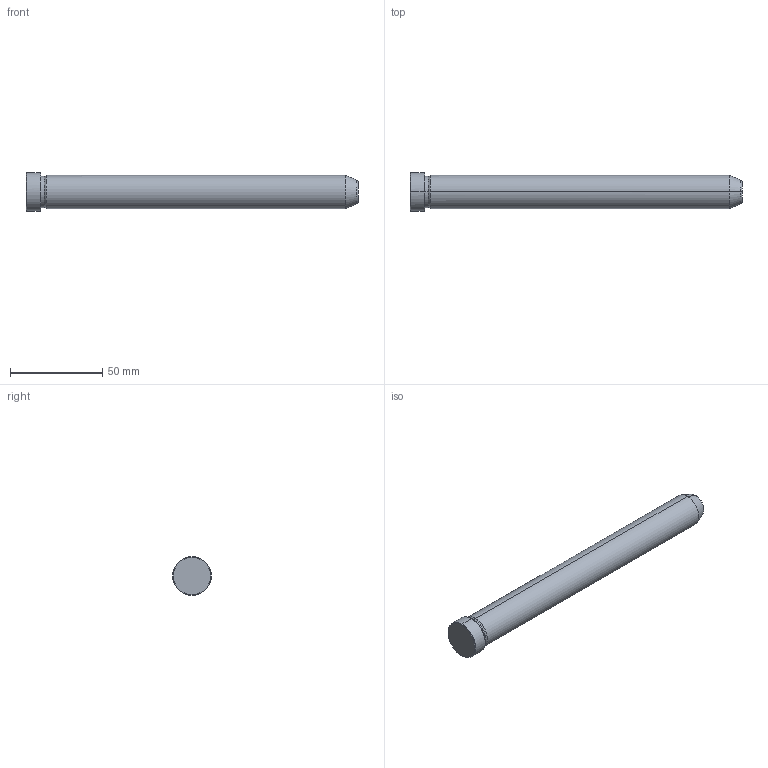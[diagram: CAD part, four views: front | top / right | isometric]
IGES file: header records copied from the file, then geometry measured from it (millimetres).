
Start section: START RECORD GO HERE.
Global section: file name: 549-18X180.igs; native system: DASSAULT SYSTEMES CATIA V5 R20 - www.3ds.com; preprocessor: CATIA Version 5 Release 20 ; author: Utente; organization: NB04-ASUS; date: 20211211.103946; units: millimetre
Bounding box: 180 x 21 x 21 mm (x, y, z)
Surface area: 10773.4 mm2 (no closed solid volume)
Topology: 0 solids, 0 shells, 19 faces, 112 edges, 112 vertices
Faces by surface type: revolution 16, plane 3
